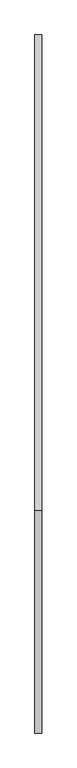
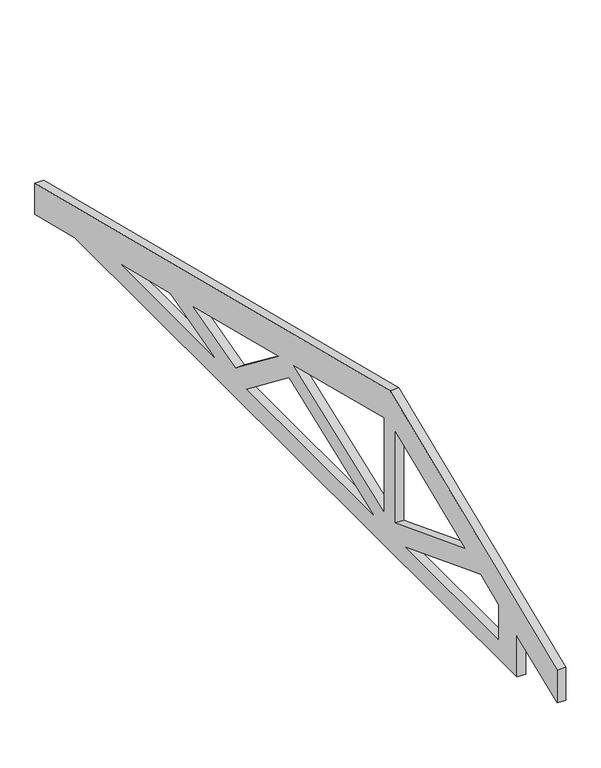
"""IFC4 building model written with IfcOpenShell, lengths in millimetres: beam geometry, Structural Framing Roof w/ Heel32 : Structural Framing Roof w/ Heel."""

from ifc_helpers import new_model, si_unit, frame, origin, place, context, project, spatial, polyline, outline, extrude, source, transform, mapped, element, save


def beam_a1ac3334(model_context):
    return source(origin(), model_context, "Body", "SweptSolid", [
        extrude(outline(polyline([(-567.4306963, 7371.3908702), (2129.3349287, 6697.199464), (2129.3349287, 6553.2), (1827.7099287, 6628.60625), (-1528.2650713, 6628.60625), (-1528.2650713, 6819.7015473), (-1833.0650713, 6692.7015473), (-1833.0650713, 6844.043214), (-567.4306963, 7371.3908702)]), holes=[polyline([(-516.6306963, 6782.2363391), (164.6437369, 7044.372798), (-516.6306963, 7214.6914063), (-516.6306963, 6782.2363391)]), polyline([(-605.5306963, 7204.1742036), (-1132.0051562, 6984.8098453), (-605.5306963, 6782.2363391), (-605.5306963, 7204.1742036)]), polyline([(-1250.8584209, 6935.2876516), (-1388.5650713, 6877.9098806), (-1388.5650713, 6717.50625), (-684.8596979, 6717.50625), (-1250.8584209, 6935.2876516)]), polyline([(-437.3016947, 6717.50625), (523.3222225, 6717.50625), (203.1142501, 6963.9214386), (-437.3016947, 6717.50625)]), polyline([(605.8802935, 6766.1501764), (929.0721844, 6853.2656861), (282.6884025, 7014.8616315), (605.8802935, 6766.1501764)]), polyline([(766.9985675, 6717.50625), (1472.1099287, 6717.50625), (1106.289777, 6808.9612879), (766.9985675, 6717.50625)])]), frame((-14104.2041473, 0.0, 0.0), z_axis=(1.0, 0.0, 0.0), x_axis=(0.0, 1.0, 0.0)), (0.0, 0.0, 1.0), 38.1),
    ])


if __name__ == "__main__":
    model = new_model("IFC4")
    model_context = context("Model", 3, world=origin())
    ifc_project = project(units=[si_unit("LENGTHUNIT", "METRE", prefix="MILLI")], contexts=[model_context])
    site = spatial("IfcSite", under=ifc_project)
    building = spatial("IfcBuilding", under=site)
    placement = place(None, origin())
    beam_shape = beam_a1ac3334(model_context)
    element("IfcBeam", 1, ObjectType="Structural Framing Roof w/ Heel32 : Structural Framing Roof w/ Heel", at=placement, inside=building, context=model_context, shape_type="MappedRepresentation", body=[
        mapped(beam_shape, transform((0.0, 0.0, 0.0), x_axis=(1.0, 0.0, 0.0), y_axis=(0.0, 1.0, 0.0), z_axis=(0.0, 0.0, 1.0))),
    ])
    save(model, "model.ifc")
